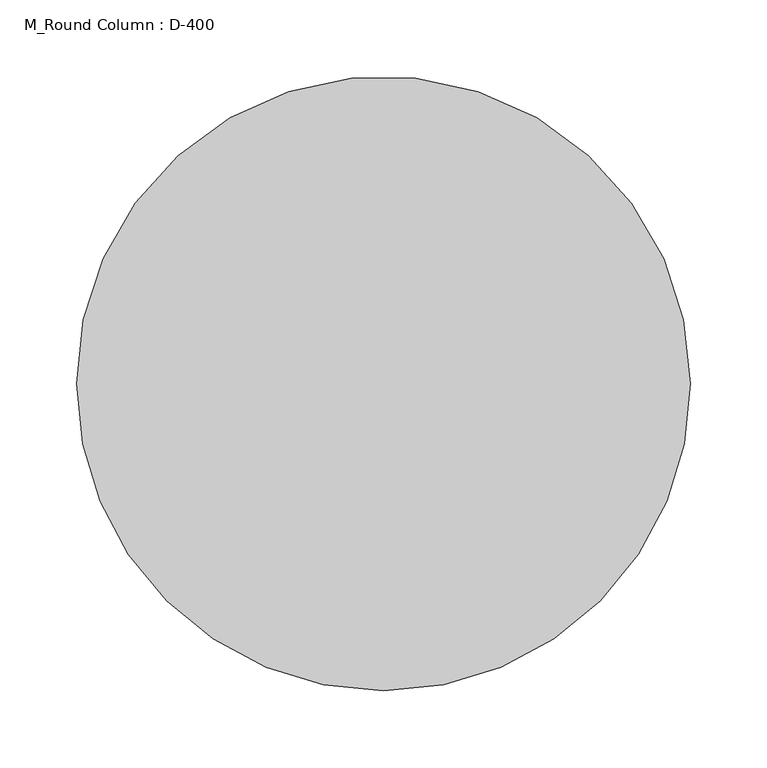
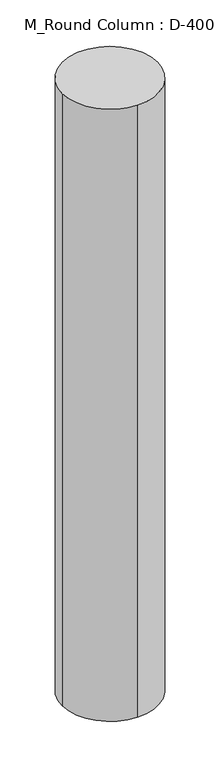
"""IFC4 building model written with IfcOpenShell, lengths in millimetres: column geometry, M_Round Column : D-400."""

from ifc_helpers import new_model, si_unit, point, frame, origin, origin_2d, place, context, project, spatial, circle_curve, trimmed, segment, composite_curve, outline, extrude, source, transform, mapped, element, save


def m_round_column_d_400_60cc1a0f(model_context):
    return source(origin(), model_context, "Body", "SweptSolid", [
        extrude(outline(composite_curve([segment(trimmed(circle_curve(origin_2d(), 200.0), [point((200.0, 0.0))], [point((0.0, -200.0))], False, "CARTESIAN"), True, "CONTINUOUS"), segment(trimmed(circle_curve(origin_2d(), 200.0), [point((0.0, -200.0))], [point((-200.0, 0.0))], False, "CARTESIAN"), True, "CONTINUOUS"), segment(trimmed(circle_curve(origin_2d(), 200.0), [point((-200.0, 0.0))], [point((200.0, 0.0))], False, "CARTESIAN"), True, "CONTINUOUS")], self_intersect=False)), frame((0.0, 0.0, 2480.0), z_axis=(0.0, 0.0, 1.0), x_axis=(1.0, 0.0, 0.0)), (0.0, 0.0, 1.0), 2720.0),
    ])


if __name__ == "__main__":
    model = new_model("IFC4")
    model_context = context("Model", 3, world=origin())
    ifc_project = project(units=[si_unit("LENGTHUNIT", "METRE", prefix="MILLI")], contexts=[model_context])
    site = spatial("IfcSite", under=ifc_project)
    building = spatial("IfcBuilding", under=site)
    placement = place(None, origin())
    m_round_column_d_400_shape = m_round_column_d_400_60cc1a0f(model_context)
    element("IfcColumn", 1, ObjectType="M_Round Column : D-400", at=placement, inside=building, context=model_context, shape_type="MappedRepresentation", body=[
        mapped(m_round_column_d_400_shape, transform((0.0, 0.0, 0.0), x_axis=(1.0, 0.0, 0.0), y_axis=(0.0, 1.0, 0.0), z_axis=(0.0, 0.0, 1.0))),
    ])
    save(model, "model.ifc")
